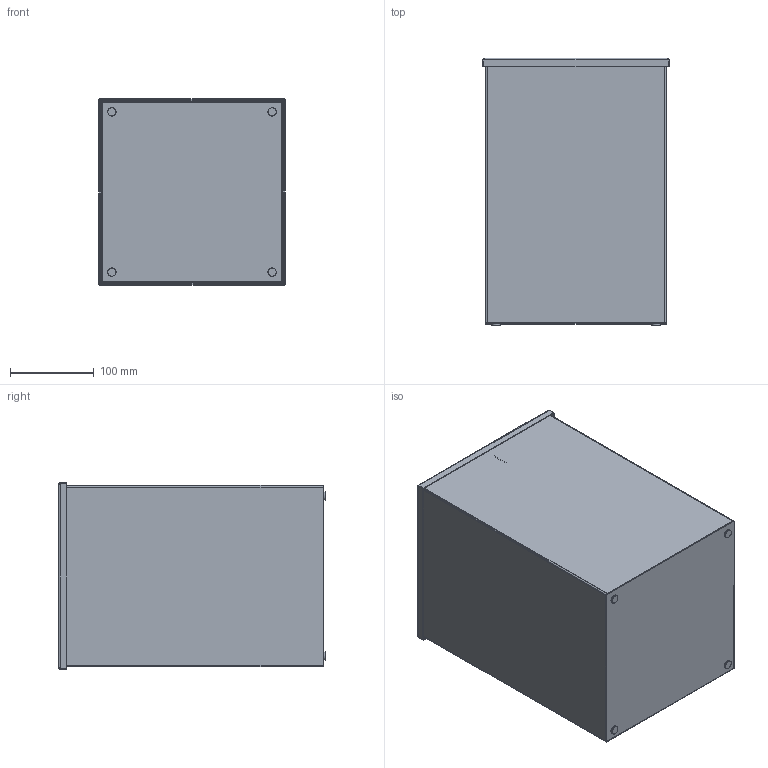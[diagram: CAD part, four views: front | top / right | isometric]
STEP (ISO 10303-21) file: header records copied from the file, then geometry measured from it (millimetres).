
FILE_DESCRIPTION (( 'STEP AP203' ), '1' );
FILE_NAME ('Kosz na smieci ³azienkowy BORGO.STEP', '2021-10-11T08:05:10', ( '' ), ( '' ), 'SwSTEP 2.0', 'SolidWorks 2020', '' );
FILE_SCHEMA (( 'CONFIG_CONTROL_DESIGN' ));
Length unit declared in the file: millimetre
Products named in the file (13): Kosz na smieci ³azienkowy BORGO; 19-0006-02-00_V3 do wizualizacji; 19-0006-01-00_V3 do wizualizacji; 19-0006-01-10 do wizualizacji; 19-0006-02-03; 19-0006-02-02_V3; 19-0006-01-02_V3; hex nut style 1 gradeab_iso_ISO - 4032 - M6 - W - N; 19-0006-02-01_V3; plain washer normal grade a_iso_Washer ISO 7089 - 6; 19-0006-01-01_V3 do wizualizacji; 19-0006-01-11 do wizualizcji; stopka gumowa 10mm_7mm
Assembly tree (19 placements, depth 4):
  Kosz na smieci ³azienkowy BORGO
    19-0006-01-00_V3 do wizualizacji
      19-0006-01-01_V3 do wizualizacji
      19-0006-01-10 do wizualizacji
        19-0006-01-11 do wizualizcji  x2
      19-0006-01-02_V3
    19-0006-02-00_V3 do wizualizacji
      19-0006-02-01_V3
      19-0006-02-02_V3
      19-0006-02-03  x2
      hex nut style 1 gradeab_iso_ISO - 4032 - M6 - W - N  x2
      plain washer normal grade a_iso_Washer ISO 7089 - 6  x2
    stopka gumowa 10mm_7mm  x4
Bounding box: 222 x 318.5 x 222 mm (x, y, z)
Volume: 409725.9 mm3; surface area: 805984.2 mm2
Topology: 16 solids, 16 shells, 456 faces, 1044 edges, 628 vertices
Faces by surface type: plane 232, cylinder 172, cone 30, bspline 14, torus 8
Entity records: 12401 total; most frequent: CARTESIAN_POINT 3564, DIRECTION 1551, ORIENTED_EDGE 1490, EDGE_CURVE 745, AXIS2_PLACEMENT_3D 545, VECTOR 461, LINE 461, VERTEX_POINT 448
